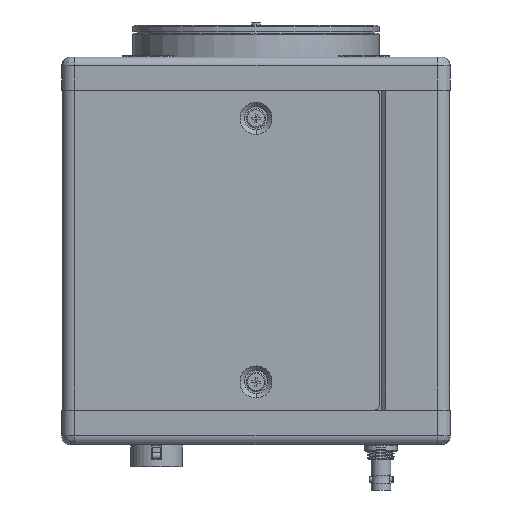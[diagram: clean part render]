
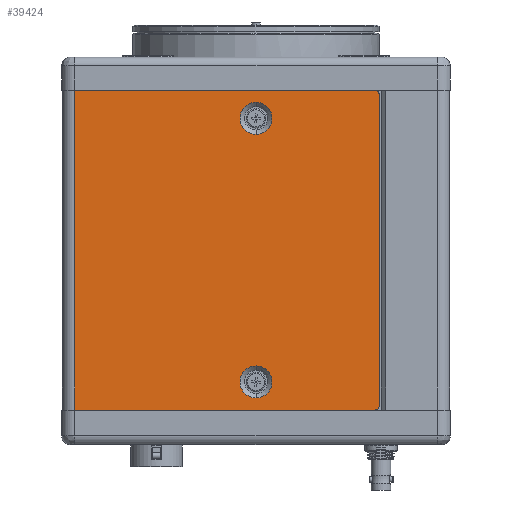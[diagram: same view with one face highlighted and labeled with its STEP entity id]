
A CAD part, left-side view. The second image highlights one B-rep face of the part: STEP entity #39424.
In plain terms, the highlighted planar face has unit normal (-1, 0, 0).
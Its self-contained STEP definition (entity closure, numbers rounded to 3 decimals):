
#7879=DIRECTION('',(0.,0.,-1.));
#7880=VECTOR('',#7879,74.);
#7881=CARTESIAN_POINT('',(-44.8,42.,82.));
#7882=LINE('',#7881,#7880);
#7887=CARTESIAN_POINT('',(-44.8,-27.5,9.));
#7888=DIRECTION('',(1.,0.,0.));
#7889=DIRECTION('',(0.,-1.,0.));
#7890=AXIS2_PLACEMENT_3D('',#7887,#7888,#7889);
#7892=DIRECTION('',(0.,1.,0.));
#7893=VECTOR('',#7892,69.5);
#7894=CARTESIAN_POINT('',(-44.8,-27.5,8.));
#7895=LINE('',#7894,#7893);
#7896=DIRECTION('',(0.,-1.,0.));
#7897=VECTOR('',#7896,69.5);
#7898=CARTESIAN_POINT('',(-44.8,42.,82.));
#7899=LINE('',#7898,#7897);
#7900=CARTESIAN_POINT('',(-44.8,-27.5,81.));
#7901=DIRECTION('',(1.,0.,0.));
#7902=DIRECTION('',(0.,0.,1.));
#7903=AXIS2_PLACEMENT_3D('',#7900,#7901,#7902);
#7905=CARTESIAN_POINT('',(-44.8,0.,75.5));
#7906=DIRECTION('',(-1.,0.,0.));
#7907=DIRECTION('',(0.,0.,1.));
#7908=AXIS2_PLACEMENT_3D('',#7905,#7906,#7907);
#7910=CARTESIAN_POINT('',(-44.8,0.,75.5));
#7911=DIRECTION('',(-1.,0.,0.));
#7912=DIRECTION('',(0.,0.,-1.));
#7913=AXIS2_PLACEMENT_3D('',#7910,#7911,#7912);
#7915=CARTESIAN_POINT('',(-44.8,0.,14.5));
#7916=DIRECTION('',(-1.,0.,0.));
#7917=DIRECTION('',(0.,0.,1.));
#7918=AXIS2_PLACEMENT_3D('',#7915,#7916,#7917);
#7920=CARTESIAN_POINT('',(-44.8,0.,14.5));
#7921=DIRECTION('',(-1.,0.,0.));
#7922=DIRECTION('',(0.,0.,-1.));
#7923=AXIS2_PLACEMENT_3D('',#7920,#7921,#7922);
#7933=DIRECTION('',(0.,0.,-1.));
#7934=VECTOR('',#7933,72.);
#7935=CARTESIAN_POINT('',(-44.8,-28.5,81.));
#7936=LINE('',#7935,#7934);
#19278=CARTESIAN_POINT('',(-44.8,42.,82.));
#19279=VERTEX_POINT('',#19278);
#19280=CARTESIAN_POINT('',(-44.8,-27.5,82.));
#19281=VERTEX_POINT('',#19280);
#19334=CARTESIAN_POINT('',(-44.8,42.,8.));
#19335=VERTEX_POINT('',#19334);
#19336=CARTESIAN_POINT('',(-44.8,-27.5,8.));
#19337=VERTEX_POINT('',#19336);
#19342=CARTESIAN_POINT('',(-44.8,-28.5,9.));
#19343=VERTEX_POINT('',#19342);
#19344=CARTESIAN_POINT('',(-44.8,-28.5,81.));
#19345=VERTEX_POINT('',#19344);
#19346=CARTESIAN_POINT('',(-44.8,0.,79.2));
#19347=CARTESIAN_POINT('',(-44.8,0.,71.8));
#19348=VERTEX_POINT('',#19346);
#19349=VERTEX_POINT('',#19347);
#19350=CARTESIAN_POINT('',(-44.8,0.,18.2));
#19351=CARTESIAN_POINT('',(-44.8,0.,10.8));
#19352=VERTEX_POINT('',#19350);
#19353=VERTEX_POINT('',#19351);
#39396=CARTESIAN_POINT('',(-44.8,6.75,45.));
#39397=DIRECTION('',(1.,0.,0.));
#39398=DIRECTION('',(0.,1.,0.));
#39399=AXIS2_PLACEMENT_3D('',#39396,#39397,#39398);
#39400=PLANE('',#39399);
#39402=ORIENTED_EDGE('',*,*,#39401,.T.);
#39403=ORIENTED_EDGE('',*,*,#21844,.T.);
#39404=ORIENTED_EDGE('',*,*,#39381,.F.);
#39405=ORIENTED_EDGE('',*,*,#21694,.T.);
#39407=ORIENTED_EDGE('',*,*,#39406,.T.);
#39409=ORIENTED_EDGE('',*,*,#39408,.T.);
#39410=EDGE_LOOP('',(#39402,#39403,#39404,#39405,#39407,#39409));
#39411=FACE_OUTER_BOUND('',#39410,.F.);
#39413=ORIENTED_EDGE('',*,*,#39412,.T.);
#39415=ORIENTED_EDGE('',*,*,#39414,.T.);
#39416=EDGE_LOOP('',(#39413,#39415));
#39417=FACE_BOUND('',#39416,.F.);
#39419=ORIENTED_EDGE('',*,*,#39418,.T.);
#39421=ORIENTED_EDGE('',*,*,#39420,.T.);
#39422=EDGE_LOOP('',(#39419,#39421));
#39423=FACE_BOUND('',#39422,.F.);
#7891=CIRCLE('',#7890,1.);
#7904=CIRCLE('',#7903,1.);
#7909=CIRCLE('',#7908,3.7);
#7914=CIRCLE('',#7913,3.7);
#7919=CIRCLE('',#7918,3.7);
#7924=CIRCLE('',#7923,3.7);
#21694=EDGE_CURVE('',#19279,#19281,#7899,.T.);
#21844=EDGE_CURVE('',#19337,#19335,#7895,.T.);
#39381=EDGE_CURVE('',#19279,#19335,#7882,.T.);
#39401=EDGE_CURVE('',#19343,#19337,#7891,.T.);
#39406=EDGE_CURVE('',#19281,#19345,#7904,.T.);
#39408=EDGE_CURVE('',#19345,#19343,#7936,.T.);
#39412=EDGE_CURVE('',#19348,#19349,#7909,.T.);
#39414=EDGE_CURVE('',#19349,#19348,#7914,.T.);
#39418=EDGE_CURVE('',#19352,#19353,#7919,.T.);
#39420=EDGE_CURVE('',#19353,#19352,#7924,.T.);
#39424=ADVANCED_FACE('',(#39411,#39417,#39423),#39400,.F.);
